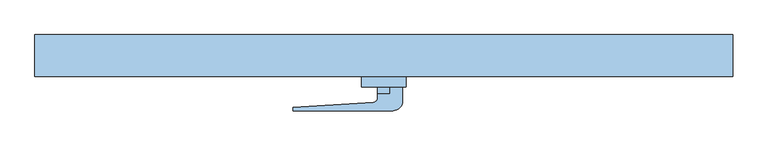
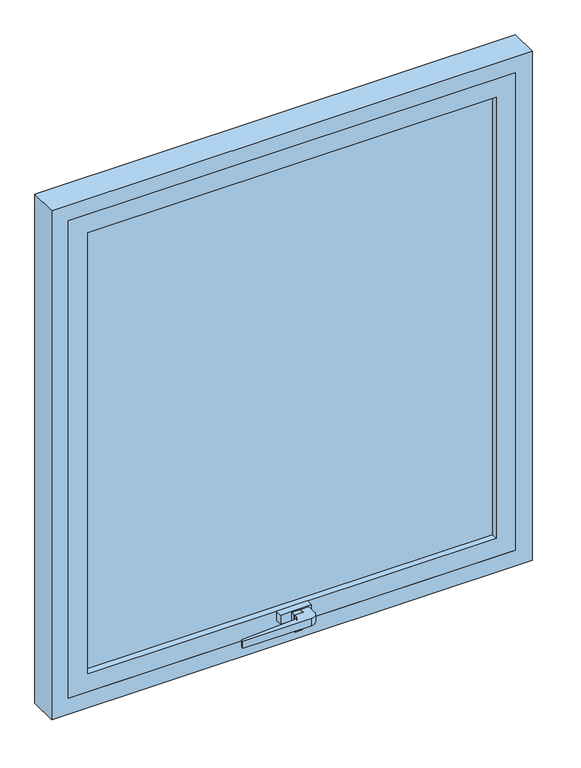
"""IFC4 building model written with IfcOpenShell, lengths in millimetres: window geometry, Janela maxim-ar - 1 Painel : J3 - Janela maxim-ar - 1 Painel."""

from ifc_helpers import new_model, si_unit, point, frame, frame_2d, origin, place, context, project, spatial, polyline, circle_curve, trimmed, segment, composite_curve, outline, extrude, source, transform, mapped, element, save


def window_0bf94046(model_context):
    return source(origin(), model_context, "Body", "SweptSolid", [
        extrude(outline(composite_curve([segment(polyline([(9.0, -100.0), (9.0, -90.0), (27.0, -90.0), (27.0, -110.0)]), True, "CONTINUOUS"), segment(trimmed(circle_curve(frame_2d((13.0, -110.0)), 14.0), [point((27.0, -110.0))], [point((13.0, -124.0))], False, "CARTESIAN"), True, "CONTINUOUS"), segment(polyline([(13.0, -124.0), (-130.0, -124.0), (-130.0, -119.0), (-14.6705919, -111.9888756)]), True, "CONTINUOUS"), segment(trimmed(circle_curve(frame_2d((-15.0369126, -105.9630874)), 6.0369126), [point((-14.6705919, -111.9888756))], [point((-9.0, -105.9630874))], True, "CARTESIAN"), True, "CONTINUOUS"), segment(polyline([(-9.0, -105.9630874), (-9.0, -100.0), (9.0, -100.0)]), True, "CONTINUOUS")], self_intersect=False)), frame((0.0, 0.0, 707.0), z_axis=(0.0, 0.0, 1.0), x_axis=(1.0, 0.0, 0.0)), (0.0, 0.0, 1.0), 16.0),
        extrude(outline(polyline([(723.0, 9.0), (723.0, -9.0), (703.0135985, -9.0), (685.0, -6.9842809), (685.0, 7.0348924), (703.0135985, 9.0), (723.0, 9.0)])), frame((0.0, -100.0, 0.0), z_axis=(0.0, 1.0, 0.0), x_axis=(0.0, 0.0, 1.0)), (0.0, 0.0, 1.0), 10.0),
        extrude(outline(polyline([(32.0, -90.0), (-32.0, -90.0), (-32.0, -75.0), (32.0, -75.0), (32.0, -90.0)])), frame((0.0, 0.0, 705.0), z_axis=(0.0, 0.0, 1.0), x_axis=(1.0, 0.0, 0.0)), (0.0, 0.0, 1.0), 20.0),
        extrude(outline(polyline([(425.0, -48.0), (425.0, -62.0), (-425.0, -62.0), (-425.0, -48.0), (425.0, -48.0)])), frame((0.0, 0.0, 725.0), z_axis=(0.0, 0.0, 1.0), x_axis=(1.0, 0.0, 0.0)), (0.0, 0.0, 1.0), 970.0),
        extrude(outline(polyline([(685.0, -465.0), (685.0, 465.0), (1735.0, 465.0), (1735.0, -465.0), (685.0, -465.0)]), holes=[polyline([(1695.0, -425.0), (1695.0, 425.0), (725.0, 425.0), (725.0, -425.0), (1695.0, -425.0)])]), frame((0.0, -75.0, 0.0), z_axis=(0.0, 1.0, 0.0), x_axis=(0.0, 0.0, 1.0)), (0.0, 0.0, 1.0), 40.0),
        extrude(outline(polyline([(650.0, -500.0), (650.0, 500.0), (1770.0, 500.0), (1770.0, -500.0), (650.0, -500.0)]), holes=[polyline([(1735.0, -465.0), (1735.0, 465.0), (685.0, 465.0), (685.0, -465.0), (1735.0, -465.0)])]), frame((0.0, -75.0, 0.0), z_axis=(0.0, 1.0, 0.0), x_axis=(0.0, 0.0, 1.0)), (0.0, 0.0, 1.0), 60.0),
    ])


if __name__ == "__main__":
    model = new_model("IFC4")
    model_context = context("Model", 3, world=origin())
    ifc_project = project(units=[si_unit("LENGTHUNIT", "METRE", prefix="MILLI")], contexts=[model_context])
    site = spatial("IfcSite", under=ifc_project)
    building = spatial("IfcBuilding", under=site)
    placement = place(None, origin())
    window_shape = window_0bf94046(model_context)
    element("IfcWindow", 1, ObjectType="Janela maxim-ar - 1 Painel : J3 - Janela maxim-ar - 1 Painel", at=placement, inside=building, context=model_context, shape_type="MappedRepresentation", body=[
        mapped(window_shape, transform((0.0, 0.0, 0.0), x_axis=(1.0, 0.0, 0.0), y_axis=(0.0, 1.0, 0.0), z_axis=(0.0, 0.0, 1.0))),
    ])
    save(model, "model.ifc")
